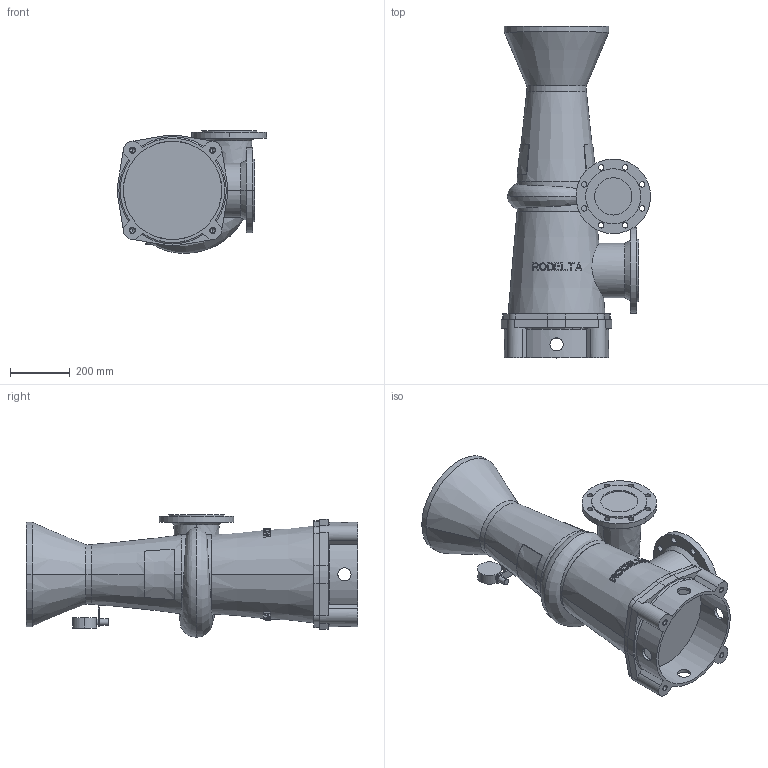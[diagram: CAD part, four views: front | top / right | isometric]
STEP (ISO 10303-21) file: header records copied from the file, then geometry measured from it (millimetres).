
FILE_DESCRIPTION((''),'2;1');
FILE_NAME('NS6210_ASM','2024-07-17T',('Lyritlocal'),(''),'PRO/ENGINEER BY PARAMETRIC TECHNOLOGY CORPORATION, 2016360','PRO/ENGINEER BY PARAMETRIC TECHNOLOGY CORPORATION, 2016360','');
FILE_SCHEMA(('CONFIG_CONTROL_DESIGN'));
Length unit declared in the file: millimetre
Products named in the file (3): 6210_VOET; 6210; NS6210_ASM
Assembly tree (2 placements, depth 2):
  NS6210_ASM
    6210_VOET
    6210
Bounding box: 499.71 x 1112 x 411.05 mm (x, y, z)
Volume: 73509644.5 mm3; surface area: 2060130 mm2
Topology: 2 solids, 6 shells, 517 faces, 1386 edges, 915 vertices
Faces by surface type: plane 342, cylinder 125, cone 40, bspline 6, torus 4
Entity records: 18499 total; most frequent: CARTESIAN_POINT 5977, ORIENTED_EDGE 2740, DIRECTION 2341, EDGE_CURVE 1378, VERTEX_POINT 915, AXIS2_PLACEMENT_3D 908, EDGE_LOOP 607, VECTOR 525
